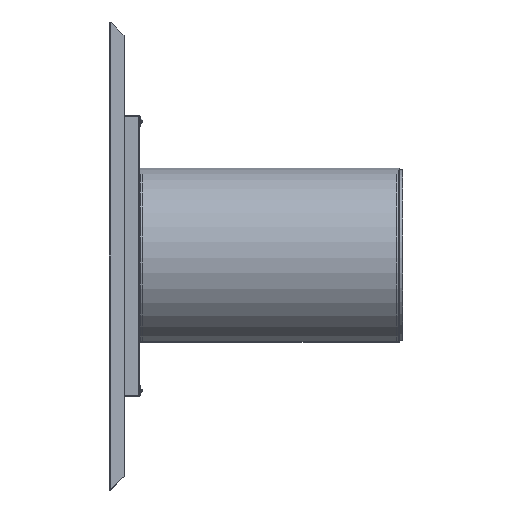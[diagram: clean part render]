
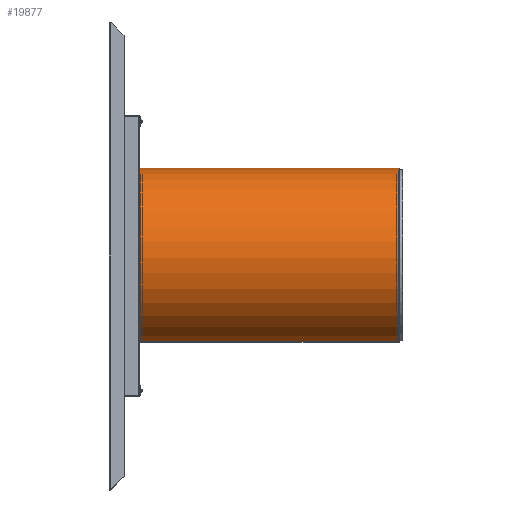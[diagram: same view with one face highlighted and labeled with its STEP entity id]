
A CAD part, left-side view. The second image highlights one B-rep face of the part: STEP entity #19877.
In plain terms, the highlighted cylindrical face has radius 230 mm (diameter 460 mm), a partial arc.
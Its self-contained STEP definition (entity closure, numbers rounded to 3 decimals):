
#1497 = VECTOR ( 'NONE', #1507, 1000. ) ;
#1507 = DIRECTION ( 'NONE',  ( 0., -1., 0. ) ) ;
#1853 = LINE ( 'NONE', #8631, #12990 ) ;
#1863 = CIRCLE ( 'NONE', #3592, 230. ) ;
#2117 = CYLINDRICAL_SURFACE ( 'NONE', #16272, 230. ) ;
#2394 = VERTEX_POINT ( 'NONE', #6407 ) ;
#2701 = LINE ( 'NONE', #16220, #1497 ) ;
#3012 = EDGE_CURVE ( 'NONE', #2394, #19440, #1853, .T. ) ;
#3592 = AXIS2_PLACEMENT_3D ( 'NONE', #11389, #14699, #8258 ) ;
#3733 = FACE_OUTER_BOUND ( 'NONE', #18255, .T. ) ;
#5547 = DIRECTION ( 'NONE',  ( 0., -1., 0. ) ) ;
#6407 = CARTESIAN_POINT ( 'NONE',  ( 2., 665., -230. ) ) ;
#6974 = EDGE_CURVE ( 'NONE', #18619, #2394, #15847, .T. ) ;
#7537 = ORIENTED_EDGE ( 'NONE', *, *, #6974, .F. ) ;
#7612 = ORIENTED_EDGE ( 'NONE', *, *, #19104, .T. ) ;
#7716 = ORIENTED_EDGE ( 'NONE', *, *, #10097, .T. ) ;
#8258 = DIRECTION ( 'NONE',  ( 0., 0., 1. ) ) ;
#8631 = CARTESIAN_POINT ( 'NONE',  ( 2., 665., -230. ) ) ;
#8675 = CARTESIAN_POINT ( 'NONE',  ( 2., 665., 0. ) ) ;
#9679 = VERTEX_POINT ( 'NONE', #16639 ) ;
#10097 = EDGE_CURVE ( 'NONE', #9679, #19440, #1863, .T. ) ;
#10538 = CARTESIAN_POINT ( 'NONE',  ( 2., 0., -230. ) ) ;
#11389 = CARTESIAN_POINT ( 'NONE',  ( 2., 0., 0. ) ) ;
#11437 = AXIS2_PLACEMENT_3D ( 'NONE', #11470, #13176, #19276 ) ;
#11470 = CARTESIAN_POINT ( 'NONE',  ( 2., 665., 0. ) ) ;
#11557 = DIRECTION ( 'NONE',  ( 0., -1., 0. ) ) ;
#12990 = VECTOR ( 'NONE', #11557, 1000. ) ;
#13176 = DIRECTION ( 'NONE',  ( 0., 1., 0. ) ) ;
#13612 = DIRECTION ( 'NONE',  ( 0., 0., -1. ) ) ;
#14699 = DIRECTION ( 'NONE',  ( 0., 1., 0. ) ) ;
#15847 = CIRCLE ( 'NONE', #11437, 230. ) ;
#16220 = CARTESIAN_POINT ( 'NONE',  ( 2., 665., 230. ) ) ;
#16272 = AXIS2_PLACEMENT_3D ( 'NONE', #8675, #5547, #13612 ) ;
#16639 = CARTESIAN_POINT ( 'NONE',  ( 2., 0., 230. ) ) ;
#17784 = ORIENTED_EDGE ( 'NONE', *, *, #3012, .F. ) ;
#18255 = EDGE_LOOP ( 'NONE', ( #7716, #17784, #7537, #7612 ) ) ;
#18619 = VERTEX_POINT ( 'NONE', #18953 ) ;
#18953 = CARTESIAN_POINT ( 'NONE',  ( 2., 665., 230. ) ) ;
#19104 = EDGE_CURVE ( 'NONE', #18619, #9679, #2701, .T. ) ;
#19276 = DIRECTION ( 'NONE',  ( 0., 0., 1. ) ) ;
#19440 = VERTEX_POINT ( 'NONE', #10538 ) ;
#19877 = ADVANCED_FACE ( 'NONE', ( #3733 ), #2117, .T. ) ;
